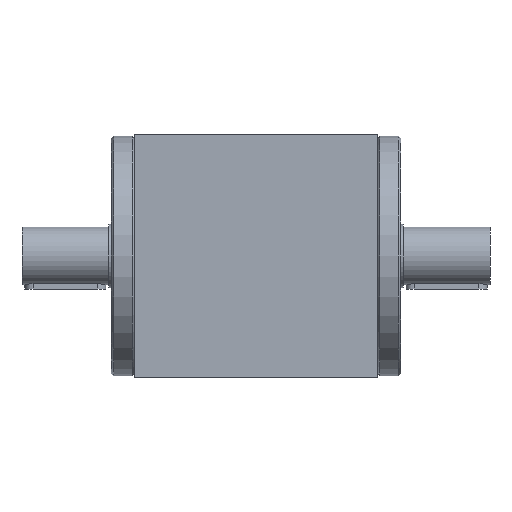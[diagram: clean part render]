
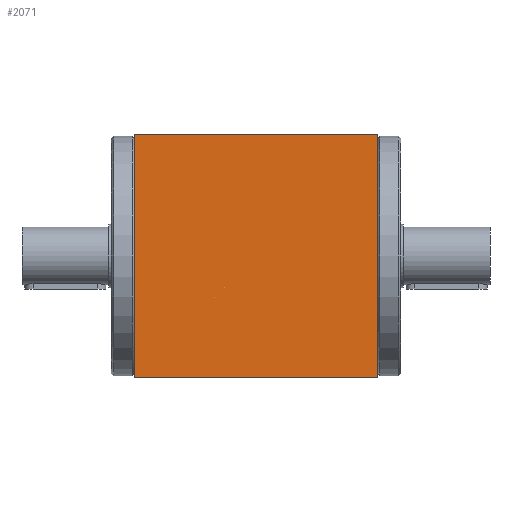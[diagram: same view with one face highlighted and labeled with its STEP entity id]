
A CAD part, left-side view. The second image highlights one B-rep face of the part: STEP entity #2071.
In plain terms, the highlighted planar face has unit normal (-1, 0, 0).
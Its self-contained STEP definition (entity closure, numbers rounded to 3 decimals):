
#2071=ADVANCED_FACE('',(#2683),#2684,.F.);
#2683=FACE_OUTER_BOUND('',#4265,.T.);
#2684=PLANE('',#4266);
#4265=EDGE_LOOP('',(#5856,#5857,#5858,#5859));
#4266=AXIS2_PLACEMENT_3D('',#5860,#5861,#5862);
#5856=ORIENTED_EDGE('',*,*,#9521,.T.);
#5857=ORIENTED_EDGE('',*,*,#9510,.F.);
#5858=ORIENTED_EDGE('',*,*,#9522,.F.);
#5859=ORIENTED_EDGE('',*,*,#9523,.T.);
#5860=CARTESIAN_POINT('',(-105.0,105.0,210.0));
#5861=DIRECTION('',(1.0,0.0,0.0));
#5862=DIRECTION('',(0.0,0.0,-1.0));
#9510=EDGE_CURVE('',#10464,#10459,#10466,.T.);
#9521=EDGE_CURVE('',#10486,#10459,#10487,.T.);
#9522=EDGE_CURVE('',#10488,#10464,#10489,.T.);
#9523=EDGE_CURVE('',#10488,#10486,#10490,.T.);
#10459=VERTEX_POINT('',#12156);
#10464=VERTEX_POINT('',#12163);
#10466=LINE('',#12166,#12167);
#10486=VERTEX_POINT('',#12190);
#10487=LINE('',#12191,#12192);
#10488=VERTEX_POINT('',#12193);
#10489=LINE('',#12194,#12195);
#10490=LINE('',#12196,#12197);
#12156=CARTESIAN_POINT('',(-105.0,-105.0,0.0));
#12163=CARTESIAN_POINT('',(-105.0,-105.0,210.0));
#12166=CARTESIAN_POINT('',(-105.0,-105.0,210.0));
#12167=VECTOR('',#14776,1.0);
#12190=CARTESIAN_POINT('',(-105.0,105.0,0.0));
#12191=CARTESIAN_POINT('',(-105.0,105.0,0.0));
#12192=VECTOR('',#14801,1.0);
#12193=CARTESIAN_POINT('',(-105.0,105.0,210.0));
#12194=CARTESIAN_POINT('',(-105.0,105.0,210.0));
#12195=VECTOR('',#14802,1.0);
#12196=CARTESIAN_POINT('',(-105.0,105.0,210.0));
#12197=VECTOR('',#14803,1.0);
#14776=DIRECTION('',(0.0,0.0,-1.0));
#14801=DIRECTION('',(0.0,-1.0,0.0));
#14802=DIRECTION('',(0.0,-1.0,0.0));
#14803=DIRECTION('',(0.0,0.0,-1.0));
